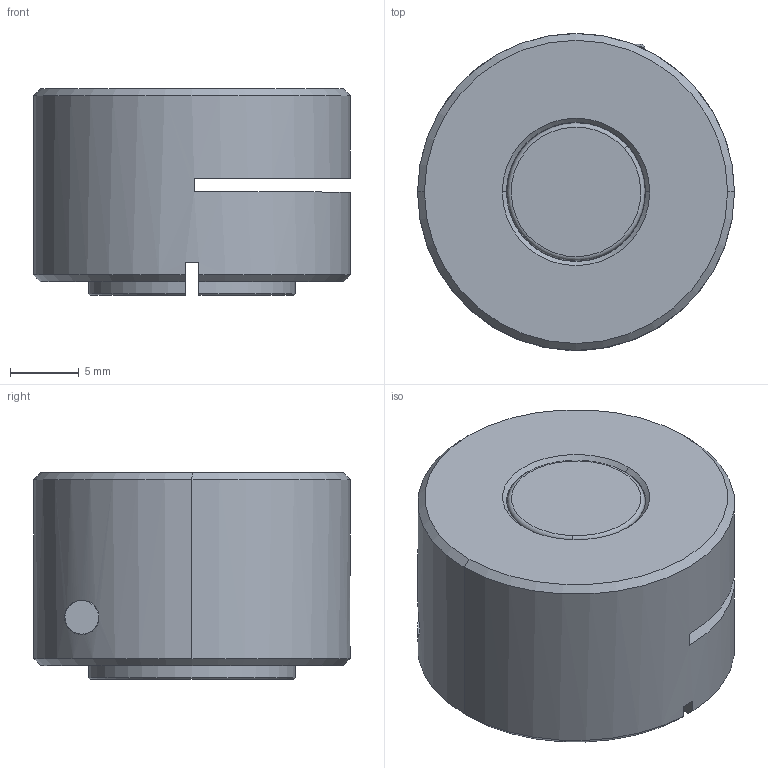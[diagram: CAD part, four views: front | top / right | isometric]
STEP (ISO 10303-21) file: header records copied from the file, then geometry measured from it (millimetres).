
FILE_DESCRIPTION (( 'STEP AP203' ), '1' );
FILE_NAME ('90.5002.STEP', '2024-12-16T08:21:23', ( '' ), ( '' ), 'SwSTEP 2.0', 'SolidWorks 2023', '' );
FILE_SCHEMA (( 'CONFIG_CONTROL_DESIGN' ));
Length unit declared in the file: millimetre
Products named in the file (1): 90.5002
Bounding box: 23 x 23 x 15 mm (x, y, z)
Volume: 4910 mm3; surface area: 3317.2 mm2
Topology: 3 solids, 3 shells, 83 faces, 195 edges, 120 vertices
Faces by surface type: plane 32, cylinder 24, cone 17, torus 10
Entity records: 2565 total; most frequent: CARTESIAN_POINT 545, DIRECTION 436, ORIENTED_EDGE 386, EDGE_CURVE 193, AXIS2_PLACEMENT_3D 177, VERTEX_POINT 120, CIRCLE 93, EDGE_LOOP 91
